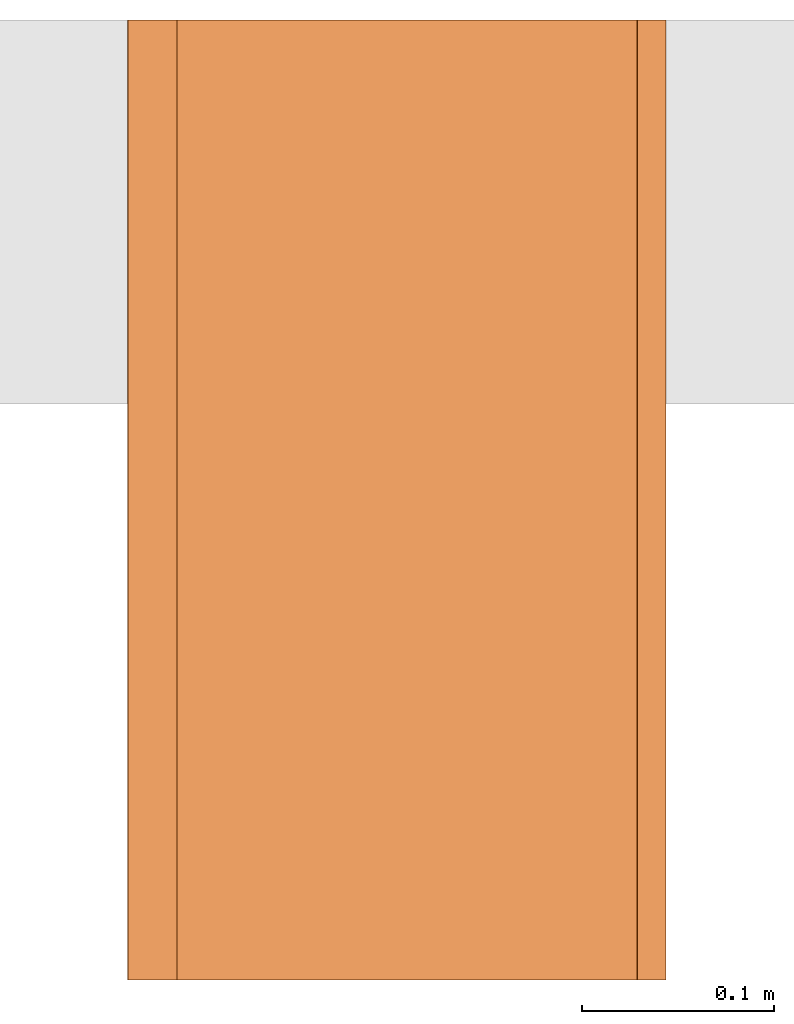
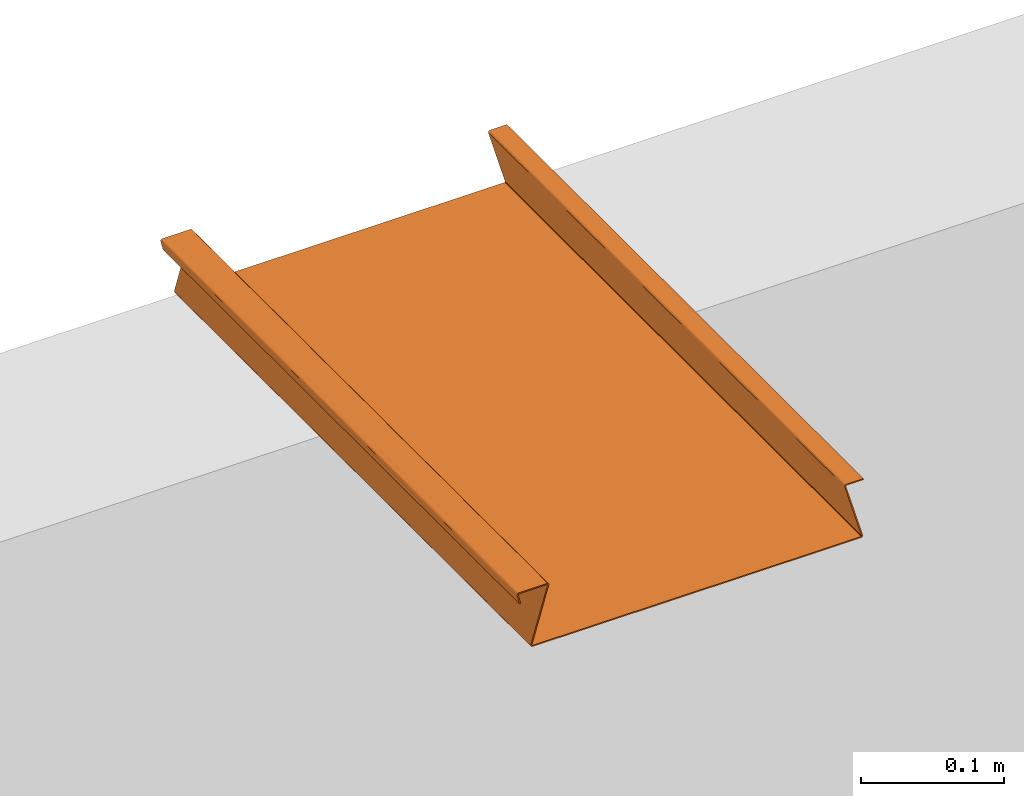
# One storey, part 2 of 2: 1 proxy.
"""IFC2X3 building model written with IfcOpenShell, lengths in millimetres."""

from ifc_helpers import new_model, entity, si_unit, converted_unit, derived_unit, direction, frame, frame_2d, origin, place, context, subcontext, project, spatial, polyline, circle_curve, parameter, trimmed, segment, composite_curve, outline, extrude, source, transform, mapped, material, type_object, type_shapes, element, save


model = new_model("IFC2X3")

# Units and contexts
model_context = context("Model", 3, precision=0.01, world=origin(), true_north=direction((6.12303176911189e-17, 1.0)))
body_context = subcontext(model_context, "Body", "Model", "MODEL_VIEW")
ifc_project = project(units=[si_unit("LENGTHUNIT", "METRE", prefix="MILLI"), si_unit("AREAUNIT", "SQUARE_METRE"), si_unit("VOLUMEUNIT", "CUBIC_METRE"), converted_unit("PLANEANGLEUNIT", "DEGREE", entity("IfcRatioMeasure", 0.0174532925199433), si_unit("PLANEANGLEUNIT", "RADIAN"), dimensions=[0, 0, 0, 0, 0, 0, 0]), si_unit("MASSUNIT", "GRAM", prefix="KILO"), derived_unit("MASSDENSITYUNIT", [(si_unit("MASSUNIT", "GRAM", prefix="KILO"), 1), (si_unit("LENGTHUNIT", "METRE"), -3)]), si_unit("TIMEUNIT", "SECOND"), si_unit("FREQUENCYUNIT", "HERTZ"), si_unit("THERMODYNAMICTEMPERATUREUNIT", "DEGREE_CELSIUS"), derived_unit("THERMALTRANSMITTANCEUNIT", [(si_unit("MASSUNIT", "GRAM", prefix="KILO"), 1), (si_unit("THERMODYNAMICTEMPERATUREUNIT", "KELVIN"), -1), (si_unit("TIMEUNIT", "SECOND"), -3)]), derived_unit("VOLUMETRICFLOWRATEUNIT", [(si_unit("LENGTHUNIT", "METRE"), 3), (si_unit("TIMEUNIT", "SECOND"), -1)]), si_unit("ELECTRICCURRENTUNIT", "AMPERE"), si_unit("ELECTRICVOLTAGEUNIT", "VOLT"), si_unit("POWERUNIT", "WATT"), si_unit("FORCEUNIT", "NEWTON", prefix="KILO"), si_unit("ILLUMINANCEUNIT", "LUX"), si_unit("LUMINOUSFLUXUNIT", "LUMEN"), si_unit("LUMINOUSINTENSITYUNIT", "CANDELA"), derived_unit("USERDEFINED", [(si_unit("MASSUNIT", "GRAM", prefix="KILO"), -1), (si_unit("LENGTHUNIT", "METRE"), -2), (si_unit("TIMEUNIT", "SECOND"), 3), (si_unit("LUMINOUSFLUXUNIT", "LUMEN"), 1)]), derived_unit("LINEARVELOCITYUNIT", [(si_unit("LENGTHUNIT", "METRE"), 1), (si_unit("TIMEUNIT", "SECOND"), -1)]), si_unit("PRESSUREUNIT", "PASCAL"), derived_unit("USERDEFINED", [(si_unit("LENGTHUNIT", "METRE"), -2), (si_unit("MASSUNIT", "GRAM", prefix="KILO"), 1), (si_unit("TIMEUNIT", "SECOND"), -2)])], contexts=[model_context])

# Site, building, storey
site_placement = place(None, origin())
site = spatial("IfcSite", under=ifc_project, at=site_placement, Name="Default", CompositionType="ELEMENT")
building_placement = place(site_placement, origin())
building = spatial("IfcBuilding", under=site, at=building_placement, CompositionType="ELEMENT")
storey_placement = place(building_placement, origin())
storey = spatial("IfcBuildingStorey", under=building, at=storey_placement, Name="Level 1", CompositionType="ELEMENT", Elevation=0.0)

# Proxy
ifc_material = material(Name="ISQ 300, Galvanized Z275")
building_element_proxy_type = type_object("IfcBuildingElementProxyType", Name="Bond-Lok Sheeting", PredefinedType="NOTDEFINED", material=ifc_material)
shared_shape = source(origin(), body_context, "Body", "SweptSolid", [
    extrude(outline(composite_curve([segment(polyline([(-157.771367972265, -32.3052713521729), (108.247497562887, -32.3052713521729)]), True, "CONTINUOUS"), segment(trimmed(circle_curve(frame_2d((108.247497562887, -30.805271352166), x_axis=(-1.0, 0.0)), 1.5), [parameter(90.0000000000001)], [parameter(196.00001125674)], True, "PARAMETER"), True, "CONTINUOUS"), segment(polyline([(109.689390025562, -30.3918150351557), (96.0836870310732, 16.0569101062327)]), True, "CONTINUOUS"), segment(trimmed(circle_curve(frame_2d((96.5643179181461, 16.1947286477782), x_axis=(-1.0, 0.0)), 0.500000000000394), [parameter(270.0)], [parameter(15.9999837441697)], True, "PARAMETER"), False, "CONTINUOUS"), segment(polyline([(96.5643179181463, 16.6947286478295), (119.261415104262, 16.6947286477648)]), True, "CONTINUOUS"), segment(trimmed(circle_curve(frame_2d((119.261415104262, 16.1947286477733), x_axis=(-1.0, 0.0)), 0.499999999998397), [parameter(166.219937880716)], [parameter(270.0)], True, "PARAMETER"), False, "CONTINUOUS"), segment(polyline([(119.74702371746, 16.0756308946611), (117.820578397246, 8.2207518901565)]), True, "CONTINUOUS"), segment(polyline([(117.820578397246, 8.2207518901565), (118.791795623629, 7.98255638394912)]), True, "CONTINUOUS"), segment(polyline([(118.791795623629, 7.98255638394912), (120.718240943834, 15.8374353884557)]), True, "CONTINUOUS"), segment(trimmed(circle_curve(frame_2d((119.261415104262, 16.1947286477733), x_axis=(-1.0, 0.0)), 1.4999999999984), [parameter(166.21993788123)], [parameter(270.0)], True, "PARAMETER"), True, "CONTINUOUS"), segment(polyline([(119.261415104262, 17.6947286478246), (96.5643179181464, 17.6947286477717)]), True, "CONTINUOUS"), segment(trimmed(circle_curve(frame_2d((96.5643179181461, 16.1947286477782), x_axis=(-1.0, 0.0)), 1.50000000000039), [parameter(270.000000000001)], [parameter(16.1379004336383)], True, "PARAMETER"), True, "CONTINUOUS"), segment(polyline([(95.1234246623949, 15.7778034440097), (108.728698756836, -30.6694574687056)]), True, "CONTINUOUS"), segment(trimmed(circle_curve(frame_2d((108.247497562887, -30.805271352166), x_axis=(-1.0, 0.0)), 0.499999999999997), [parameter(90.0000000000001)], [parameter(195.761151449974)], True, "PARAMETER"), False, "CONTINUOUS"), segment(polyline([(108.247497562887, -31.305271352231), (-157.771367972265, -31.3052713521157)]), True, "CONTINUOUS"), segment(trimmed(circle_curve(frame_2d((-157.771367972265, -30.8052713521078), x_axis=(-1.0, 0.0)), 0.500000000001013), [parameter(344.238859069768)], [parameter(90.0000000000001)], True, "PARAMETER"), False, "CONTINUOUS"), segment(polyline([(-158.252569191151, -30.6694575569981), (-144.647295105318, 15.7778033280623)]), True, "CONTINUOUS"), segment(trimmed(circle_curve(frame_2d((-146.088188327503, 16.1947286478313), x_axis=(-1.0, 0.0)), 1.49999999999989), [parameter(163.862094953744)], [parameter(270.0)], True, "PARAMETER"), True, "CONTINUOUS"), segment(polyline([(-146.088188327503, 17.6947286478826), (-159.704752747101, 17.6947286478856)]), True, "CONTINUOUS"), segment(polyline([(-159.704752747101, 17.6947286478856), (-159.704752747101, 16.6947286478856)]), True, "CONTINUOUS"), segment(polyline([(-159.704752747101, 16.6947286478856), (-146.088188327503, 16.6947286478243)]), True, "CONTINUOUS"), segment(trimmed(circle_curve(frame_2d((-146.088188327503, 16.1947286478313), x_axis=(-1.0, 0.0)), 0.499999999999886), [parameter(164.00000826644)], [parameter(270.0)], True, "PARAMETER"), False, "CONTINUOUS"), segment(polyline([(-145.607557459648, 16.0569100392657), (-159.21326047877, -30.3918151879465)]), True, "CONTINUOUS"), segment(trimmed(circle_curve(frame_2d((-157.771367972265, -30.8052713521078), x_axis=(-1.0, 0.0)), 1.50000000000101), [parameter(343.999994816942)], [parameter(90.0000000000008)], True, "PARAMETER"), True, "CONTINUOUS")], self_intersect=False)), frame((-19.7611049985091, -500.0, 34.5552713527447), z_axis=(0.0, 1.0, 0.0), x_axis=(-1.0, 0.0, 0.0)), (0.0, 0.0, 1.0), 500.0),
])
type_shapes(building_element_proxy_type, [shared_shape])
proxy_placement = place(storey_placement, frame((-9262.90078434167, 888.529970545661, 1000.0)))
element("IfcBuildingElementProxy", 1, at=proxy_placement, inside=storey, type_object=building_element_proxy_type, material=ifc_material, Name="Bond-Lok Sheeting Family:Bond-Lok Sheeting", ObjectType="Bond-Lok Sheeting", context=body_context, shape_type="MappedRepresentation", body=[
    mapped(shared_shape, transform((0.0, 0.0, 0.0), scale=1.0)),
])

save(model, "model.ifc")
